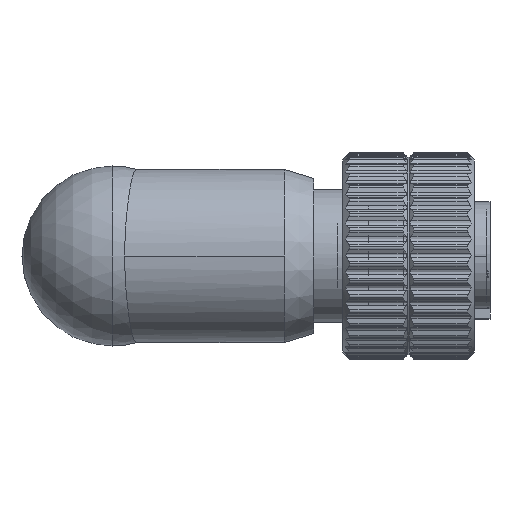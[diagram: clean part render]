
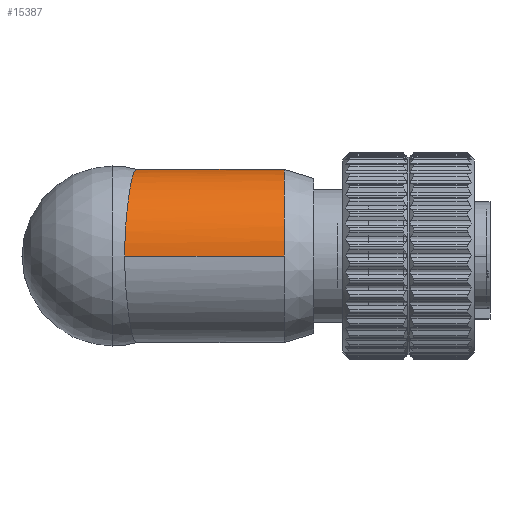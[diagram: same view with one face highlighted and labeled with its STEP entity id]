
A CAD part, left-side view. The second image highlights one B-rep face of the part: STEP entity #15387.
In plain terms, the highlighted cylindrical face has radius 6.109 mm (diameter 12.217 mm), a partial arc.
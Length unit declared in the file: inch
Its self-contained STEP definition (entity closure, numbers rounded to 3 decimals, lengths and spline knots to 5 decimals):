
#223 = CARTESIAN_POINT ( 'NONE',  ( -0.93482, -0.08893, 0.22951 ) ) ;
#376 = CARTESIAN_POINT ( 'NONE',  ( -0.78184, -0.22132, 0.08486 ) ) ;
#1325 = CARTESIAN_POINT ( 'NONE',  ( -1.17623, -0.04738, 0.17175 ) ) ;
#2572 = EDGE_CURVE ( 'NONE', #16809, #7010, #26275, .T. ) ;
#3416 = CARTESIAN_POINT ( 'NONE',  ( -1.007, 0.2205, 0. ) ) ;
#3773 = CARTESIAN_POINT ( 'NONE',  ( -0.90396, -0.1113, 0.21769 ) ) ;
#3862 = AXIS2_PLACEMENT_3D ( 'NONE', #3416, #38332, #10582 ) ;
#3924 = CARTESIAN_POINT ( 'NONE',  ( -0.77472, -0.22812, 0.0628 ) ) ;
#4837 = LINE ( 'NONE', #23669, #22306 ) ;
#4910 = CARTESIAN_POINT ( 'NONE',  ( -1.20912, -0.04224, 0.13148 ) ) ;
#5694 = CARTESIAN_POINT ( 'NONE',  ( -0.7665, -0.47854, 0. ) ) ;
#6252 = DIRECTION ( 'NONE',  ( 0., 1., 0. ) ) ;
#7010 = VERTEX_POINT ( 'NONE', #27393 ) ;
#7298 = CARTESIAN_POINT ( 'NONE',  ( -0.87027, -0.13964, 0.19828 ) ) ;
#7398 = CARTESIAN_POINT ( 'NONE',  ( -1.007, -0.47854, 0. ) ) ;
#7433 = CARTESIAN_POINT ( 'NONE',  ( -0.76815, -0.23441, 0.03219 ) ) ;
#7575 = ORIENTED_EDGE ( 'NONE', *, *, #2572, .T. ) ;
#8238 = CARTESIAN_POINT ( 'NONE',  ( -0.98725, -0.06993, 0.24031 ) ) ;
#8395 = CARTESIAN_POINT ( 'NONE',  ( -1.22895, -0.03878, 0.09303 ) ) ;
#8853 = CIRCLE ( 'NONE', #40260, 0.2405 ) ;
#9628 = CARTESIAN_POINT ( 'NONE',  ( -0.7665, 0.2205, 0. ) ) ;
#9920 = CARTESIAN_POINT ( 'NONE',  ( -1.2475, -0.47854, 0. ) ) ;
#10176 = ORIENTED_EDGE ( 'NONE', *, *, #45054, .T. ) ;
#10582 = DIRECTION ( 'NONE',  ( -1., 0., 0. ) ) ;
#10795 = CARTESIAN_POINT ( 'NONE',  ( -0.7665, -0.23599, 0. ) ) ;
#10806 = CARTESIAN_POINT ( 'NONE',  ( -0.83985, -0.16695, 0.17345 ) ) ;
#10933 = DIRECTION ( 'NONE',  ( 0., 0., 1. ) ) ;
#10963 = CARTESIAN_POINT ( 'NONE',  ( -0.7665, -0.23599, 0. ) ) ;
#11400 = VERTEX_POINT ( 'NONE', #37108 ) ;
#11755 = CARTESIAN_POINT ( 'NONE',  ( -1.00443, -0.06819, 0.2411 ) ) ;
#11905 = CARTESIAN_POINT ( 'NONE',  ( -1.2377, -0.03716, 0.06849 ) ) ;
#14171 = CARTESIAN_POINT ( 'NONE',  ( -0.97011, -0.0716, 0.23765 ) ) ;
#14313 = CARTESIAN_POINT ( 'NONE',  ( -0.82165, -0.18378, 0.15341 ) ) ;
#15261 = CARTESIAN_POINT ( 'NONE',  ( -1.05616, -0.06266, 0.23605 ) ) ;
#15387 = ADVANCED_FACE ( 'NONE', ( #28397 ), #33287, .T. ) ;
#15408 = CARTESIAN_POINT ( 'NONE',  ( -1.24372, -0.03601, 0.04332 ) ) ;
#15814 = DIRECTION ( 'NONE',  ( 0., 1., 0. ) ) ;
#16104 = AXIS2_PLACEMENT_3D ( 'NONE', #36696, #15814, #40158 ) ;
#16535 = ORIENTED_EDGE ( 'NONE', *, *, #41453, .T. ) ;
#16809 = VERTEX_POINT ( 'NONE', #42604 ) ;
#17356 = B_SPLINE_CURVE_WITH_KNOTS ( 'NONE', 3,
 ( #14171, #35052, #41977, #21184, #223, #24720, #3773, #28196, #7298, #31739, #10806, #35190, #14313, #38693, #17821, #42119, #21334, #376, #24855, #3924, #28362, #7433, #31894, #10963 ),
 .UNSPECIFIED., .F., .F.,
 ( 4, 2, 2, 2, 2, 2, 2, 2, 2, 2, 2, 4 ),
 ( 0.00077, 0.00138, 0.00199, 0.00322, 0.00444, 0.00566, 0.00628, 0.00689, 0.00811, 0.00872, 0.00934, 0.01056 ),
 .UNSPECIFIED. ) ;
#17790 = ORIENTED_EDGE ( 'NONE', *, *, #42471, .F. ) ;
#17821 = CARTESIAN_POINT ( 'NONE',  ( -0.80896, -0.19565, 0.13664 ) ) ;
#18787 = CARTESIAN_POINT ( 'NONE',  ( -1.10521, -0.05692, 0.22022 ) ) ;
#18950 = CARTESIAN_POINT ( 'NONE',  ( -1.24702, -0.03536, 0.01747 ) ) ;
#19481 = ORIENTED_EDGE ( 'NONE', *, *, #20353, .T. ) ;
#20136 = EDGE_CURVE ( 'NONE', #16809, #21970, #17356, .T. ) ;
#20353 = EDGE_CURVE ( 'NONE', #40822, #11400, #33224, .T. ) ;
#20664 = ORIENTED_EDGE ( 'NONE', *, *, #20136, .F. ) ;
#21184 = CARTESIAN_POINT ( 'NONE',  ( -0.94141, -0.08475, 0.2315 ) ) ;
#21334 = CARTESIAN_POINT ( 'NONE',  ( -0.79049, -0.21309, 0.10579 ) ) ;
#21970 = VERTEX_POINT ( 'NONE', #10795 ) ;
#22301 = VECTOR ( 'NONE', #30566, 39.37008 ) ;
#22306 = VECTOR ( 'NONE', #6252, 39.37008 ) ;
#22312 = CARTESIAN_POINT ( 'NONE',  ( -1.15007, -0.0511, 0.19408 ) ) ;
#22457 = CARTESIAN_POINT ( 'NONE',  ( -1.2475, -0.03527, 0. ) ) ;
#23669 = CARTESIAN_POINT ( 'NONE',  ( -1.2475, 0.2205, 0. ) ) ;
#24720 = CARTESIAN_POINT ( 'NONE',  ( -0.91578, -0.10195, 0.22293 ) ) ;
#24855 = CARTESIAN_POINT ( 'NONE',  ( -0.77923, -0.22381, 0.07758 ) ) ;
#25811 = CARTESIAN_POINT ( 'NONE',  ( -1.1883, -0.04556, 0.15896 ) ) ;
#26275 = B_SPLINE_CURVE_WITH_KNOTS ( 'NONE', 3,
 ( #32667, #8238, #11755, #36154, #15261, #39605, #18787, #43084, #22312, #1325, #25811, #4910, #29328, #8395, #32809, #11905, #36311, #15408, #39757, #18950, #43242, #22457 ),
 .UNSPECIFIED., .F., .F.,
 ( 4, 2, 2, 2, 2, 2, 2, 2, 2, 2, 4 ),
 ( 0.02287, 0.02419, 0.02551, 0.02682, 0.02814, 0.02946, 0.03077, 0.03143, 0.03209, 0.03275, 0.03341 ),
 .UNSPECIFIED. ) ;
#27393 = CARTESIAN_POINT ( 'NONE',  ( -1.2475, -0.03527, 0. ) ) ;
#28196 = CARTESIAN_POINT ( 'NONE',  ( -0.88122, -0.1301, 0.2054 ) ) ;
#28362 = CARTESIAN_POINT ( 'NONE',  ( -0.7728, -0.22995, 0.05527 ) ) ;
#28397 = FACE_OUTER_BOUND ( 'NONE', #29344, .T. ) ;
#29328 = CARTESIAN_POINT ( 'NONE',  ( -1.21799, -0.04073, 0.11673 ) ) ;
#29344 = EDGE_LOOP ( 'NONE', ( #19481, #16535, #10176, #20664, #7575, #17790 ) ) ;
#30566 = DIRECTION ( 'NONE',  ( 0., 1., 0. ) ) ;
#31739 = CARTESIAN_POINT ( 'NONE',  ( -0.84961, -0.15805, 0.18231 ) ) ;
#31855 = DIRECTION ( 'NONE',  ( 0., 1., 0. ) ) ;
#31894 = CARTESIAN_POINT ( 'NONE',  ( -0.7665, -0.23599, 0.01596 ) ) ;
#32667 = CARTESIAN_POINT ( 'NONE',  ( -0.97011, -0.0716, 0.23765 ) ) ;
#32809 = CARTESIAN_POINT ( 'NONE',  ( -1.23218, -0.03819, 0.0849 ) ) ;
#33224 = CIRCLE ( 'NONE', #16104, 0.2405 ) ;
#33287 = CYLINDRICAL_SURFACE ( 'NONE', #3862, 0.2405 ) ;
#35052 = CARTESIAN_POINT ( 'NONE',  ( -0.96249, -0.07395, 0.23647 ) ) ;
#35190 = CARTESIAN_POINT ( 'NONE',  ( -0.82609, -0.17966, 0.15861 ) ) ;
#36154 = CARTESIAN_POINT ( 'NONE',  ( -1.03885, -0.06456, 0.239 ) ) ;
#36311 = CARTESIAN_POINT ( 'NONE',  ( -1.24001, -0.03673, 0.06017 ) ) ;
#36696 = CARTESIAN_POINT ( 'NONE',  ( -1.007, -0.47854, 0. ) ) ;
#37108 = CARTESIAN_POINT ( 'NONE',  ( -1.007, -0.47854, 0.2405 ) ) ;
#38332 = DIRECTION ( 'NONE',  ( 0., 1., 0. ) ) ;
#38693 = CARTESIAN_POINT ( 'NONE',  ( -0.81309, -0.19178, 0.14243 ) ) ;
#39605 = CARTESIAN_POINT ( 'NONE',  ( -1.08922, -0.05885, 0.22666 ) ) ;
#39757 = CARTESIAN_POINT ( 'NONE',  ( -1.24513, -0.03573, 0.03478 ) ) ;
#40158 = DIRECTION ( 'NONE',  ( 0., 0., 1. ) ) ;
#40260 = AXIS2_PLACEMENT_3D ( 'NONE', #7398, #31855, #10933 ) ;
#40764 = LINE ( 'NONE', #9628, #22301 ) ;
#40822 = VERTEX_POINT ( 'NONE', #9920 ) ;
#41453 = EDGE_CURVE ( 'NONE', #11400, #42738, #8853, .T. ) ;
#41977 = CARTESIAN_POINT ( 'NONE',  ( -0.9553, -0.07723, 0.23499 ) ) ;
#42119 = CARTESIAN_POINT ( 'NONE',  ( -0.79733, -0.2066, 0.11866 ) ) ;
#42471 = EDGE_CURVE ( 'NONE', #40822, #7010, #4837, .T. ) ;
#42604 = CARTESIAN_POINT ( 'NONE',  ( -0.97011, -0.0716, 0.23765 ) ) ;
#42738 = VERTEX_POINT ( 'NONE', #5694 ) ;
#43084 = CARTESIAN_POINT ( 'NONE',  ( -1.13588, -0.05301, 0.20379 ) ) ;
#43242 = CARTESIAN_POINT ( 'NONE',  ( -1.2475, -0.03527, 0.00868 ) ) ;
#45054 = EDGE_CURVE ( 'NONE', #42738, #21970, #40764, .T. ) ;
